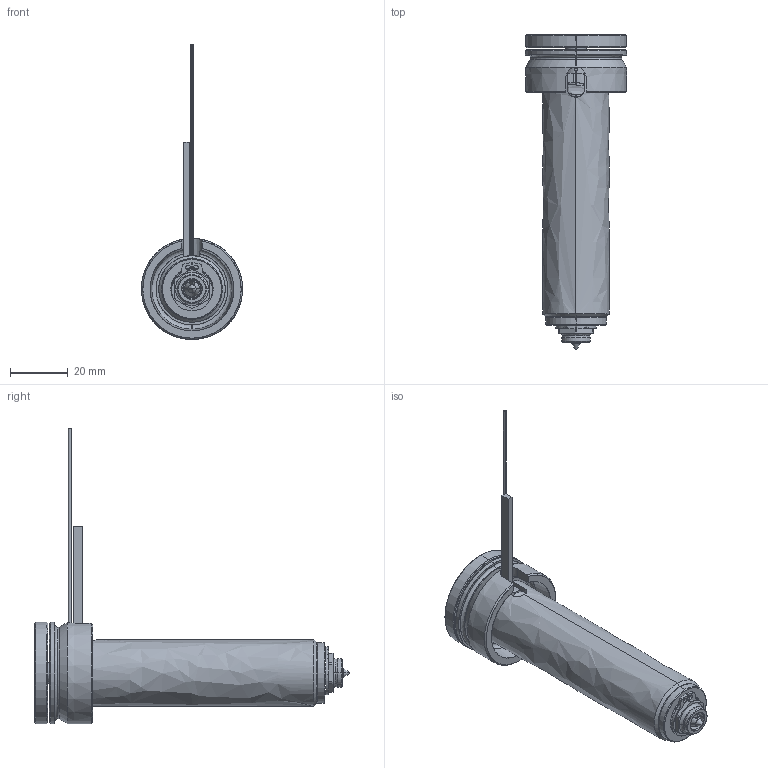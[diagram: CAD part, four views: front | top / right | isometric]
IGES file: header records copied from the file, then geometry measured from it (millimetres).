
Start section: SolidWorks IGES file using analytic representation for surfaces
Global section: file name: C:\Documents and Settings\ws-20\Desktop\TEM\UGEP3052-S-A-1 [Øf-0.50 ØC-7.0].IGS; native system: SolidWorks 2012; preprocessor: SolidWorks 2012; author: ws-20; date: 120402.143348; units: millimetre
Bounding box: 35 x 108.8 x 102.1 mm (x, y, z)
Surface area: 19305.4 mm2 (no closed solid volume)
Topology: 0 solids, 0 shells, 134 faces, 2040 edges, 2040 vertices
Faces by surface type: revolution 83, bspline 51
